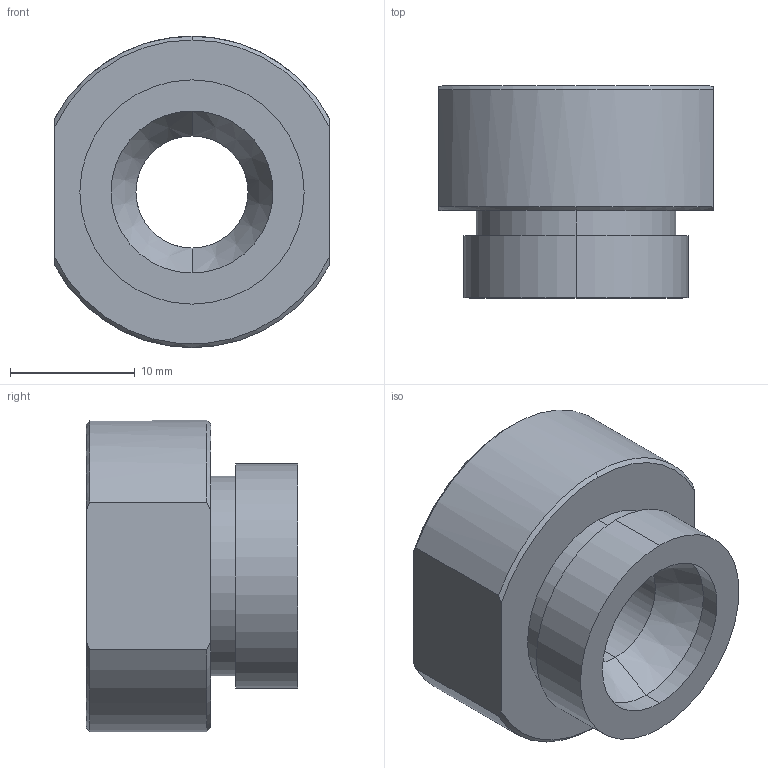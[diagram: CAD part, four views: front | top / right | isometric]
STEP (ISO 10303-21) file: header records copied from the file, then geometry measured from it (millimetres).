
FILE_DESCRIPTION (( 'STEP AP203' ), '1' );
FILE_NAME ('SW-PN-C8.STEP', '2022-04-06T01:41:26', ( '' ), ( '' ), 'SwSTEP 2.0', 'SolidWorks 2015', '' );
FILE_SCHEMA (( 'CONFIG_CONTROL_DESIGN' ));
Length unit declared in the file: millimetre
Products named in the file (2): SW-PN-C8
Bounding box: 22 x 17 x 25 mm (x, y, z)
Volume: 5036 mm3; surface area: 2518.7 mm2
Topology: 1 solids, 1 shells, 27 faces, 62 edges, 39 vertices
Faces by surface type: cylinder 11, cone 10, plane 6
Entity records: 966 total; most frequent: CARTESIAN_POINT 188, DIRECTION 139, ORIENTED_EDGE 124, EDGE_CURVE 62, AXIS2_PLACEMENT_3D 58, VERTEX_POINT 39, EDGE_LOOP 31, CIRCLE 29
